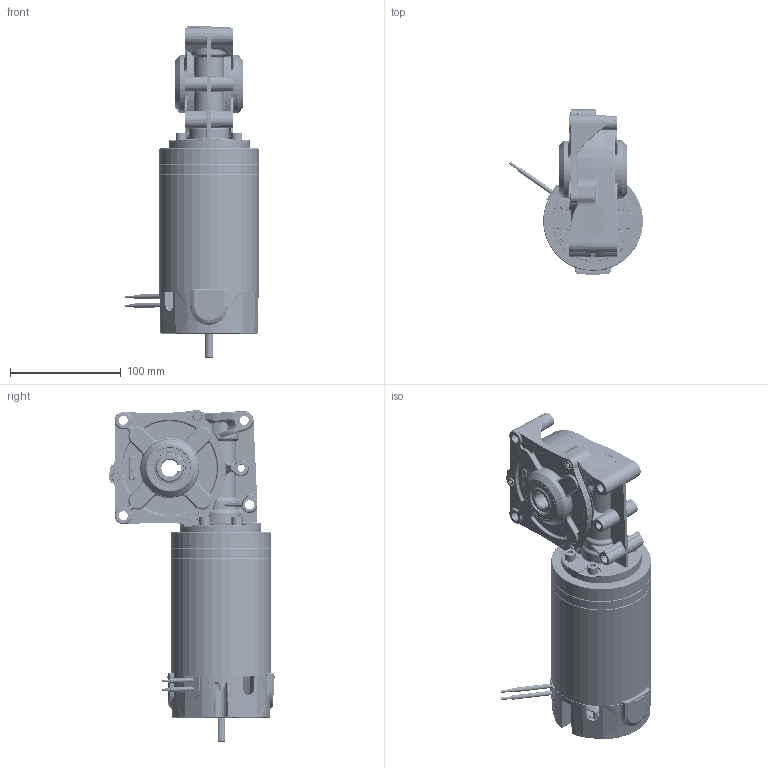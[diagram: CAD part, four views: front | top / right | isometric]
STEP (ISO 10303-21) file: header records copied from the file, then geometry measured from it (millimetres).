
FILE_DESCRIPTION (( 'STEP AP214' ), '1' );
FILE_NAME ('BRx90-50-GB12.STEP', '2023-12-18T10:56:24', ( '' ), ( '' ), 'SwSTEP 2.0', 'SolidWorks 2023', '' );
FILE_SCHEMA (( 'AUTOMOTIVE_DESIGN' ));
Length unit declared in the file: millimetre
Products named in the file (1): BRx90-50-GB12
Bounding box: 120.71 x 149.57 x 299.3 mm (x, y, z)
Volume: 650912.5 mm3; surface area: 304311.2 mm2
Topology: 51 solids, 51 shells, 4201 faces, 9927 edges, 5780 vertices
Faces by surface type: cylinder 1137, bspline 925, plane 909, torus 603, cone 493, sphere 134
Entity records: 192966 total; most frequent: CARTESIAN_POINT 56836, ORIENTED_EDGE 19420, DIRECTION 18095, EDGE_CURVE 9710, AXIS2_PLACEMENT_3D 7508, VERTEX_POINT 5780, EDGE_LOOP 4482, UNCERTAINTY_MEASURE_WITH_UNIT 4253
